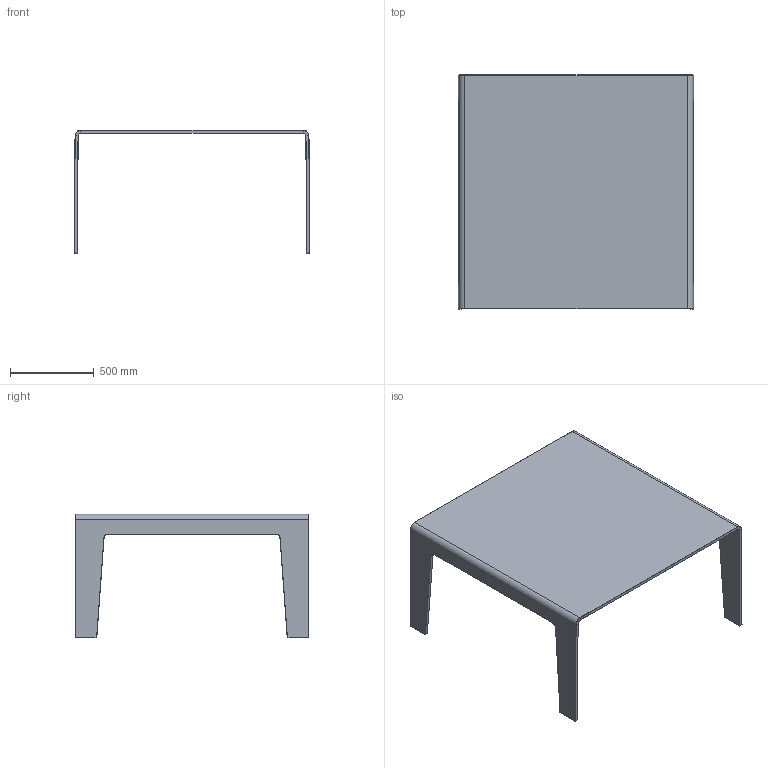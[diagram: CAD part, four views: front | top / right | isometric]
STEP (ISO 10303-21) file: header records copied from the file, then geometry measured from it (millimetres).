
FILE_DESCRIPTION((''),'2;1');
FILE_NAME('C:\AutodeskVault\AreaLavoro\Progetti\SoVeT Italia\1. Tavoli_Dining tables\Frog\Web file\Frog Web\P1522.stp','2012-05-09T10:04:24',('Gianluca'),('So.Ve.T. s.r.l.'),'Autodesk Inventor 2011','Autodesk Inventor 2011','IL PROGETTO E'' DI ESCLUSIVA PROPRIETA'' DELLA SO.VE.T. srl. E'' VIETATA OGNI RIPRODUZIONE TOTALE O PARZIALE E QUALSIASI UTILIZZO NON AUTORIZZATO.');
FILE_SCHEMA(('AUTOMOTIVE_DESIGN { 1 0 10303 214 1 1 1 1 }'));
Length unit declared in the file: millimetre
Products named in the file (1): P1522 Contorno semplificato
Bounding box: 1412.71 x 1400 x 740.06 mm (x, y, z)
Volume: 49225883.2 mm3; surface area: 5373481.6 mm2
Topology: 1 solids, 1 shells, 106 faces, 232 edges, 128 vertices
Faces by surface type: plane 58, cone 32, cylinder 16
Entity records: 2939 total; most frequent: DIRECTION 510, CARTESIAN_POINT 467, ORIENTED_EDGE 464, EDGE_CURVE 232, AXIS2_PLACEMENT_3D 171, VECTOR 168, LINE 168, VERTEX_POINT 128
